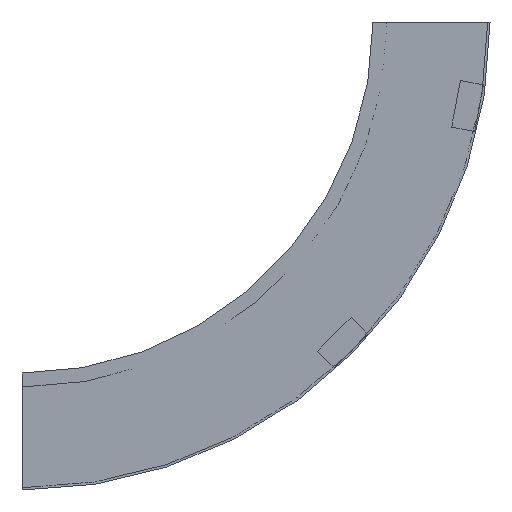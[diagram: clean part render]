
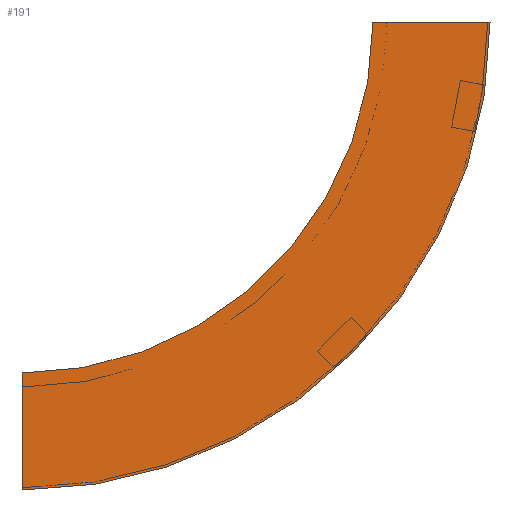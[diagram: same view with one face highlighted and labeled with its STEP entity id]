
A CAD part, left-side view. The second image highlights one B-rep face of the part: STEP entity #191.
In plain terms, the highlighted planar face has unit normal (-1, 0, 0) as drawn and (1, 0, 0) by its records, which use the part's own axes.
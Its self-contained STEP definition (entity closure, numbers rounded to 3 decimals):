
#10 = ORIENTED_EDGE ( 'NONE', *, *, #434, .F. ) ;
#24 = CARTESIAN_POINT ( 'NONE',  ( 0., 300., -400. ) ) ;
#27 = DIRECTION ( 'NONE',  ( 0., -1., 0. ) ) ;
#68 = CIRCLE ( 'NONE', #117, 300. ) ;
#74 = VECTOR ( 'NONE', #77, 1000. ) ;
#77 = DIRECTION ( 'NONE',  ( 0., 0., 1. ) ) ;
#80 = FACE_OUTER_BOUND ( 'NONE', #247, .T. ) ;
#86 = VERTEX_POINT ( 'NONE', #24 ) ;
#89 = DIRECTION ( 'NONE',  ( 0., -1., 0. ) ) ;
#117 = AXIS2_PLACEMENT_3D ( 'NONE', #306, #436, #27 ) ;
#127 = VECTOR ( 'NONE', #502, 1000. ) ;
#134 = VERTEX_POINT ( 'NONE', #567 ) ;
#138 = DIRECTION ( 'NONE',  ( 1., 0., 0. ) ) ;
#169 = AXIS2_PLACEMENT_3D ( 'NONE', #497, #138, #89 ) ;
#181 = EDGE_CURVE ( 'NONE', #86, #371, #437, .T. ) ;
#182 = CARTESIAN_POINT ( 'NONE',  ( 0., -100., 0. ) ) ;
#191 = ADVANCED_FACE ( 'NONE', ( #80 ), #542, .F. ) ;
#193 = CARTESIAN_POINT ( 'NONE',  ( 0., -100., 0. ) ) ;
#225 = DIRECTION ( 'NONE',  ( -1., 0., 0. ) ) ;
#247 = EDGE_LOOP ( 'NONE', ( #373, #10, #270, #296 ) ) ;
#249 = CARTESIAN_POINT ( 'NONE',  ( 0., -100., 0. ) ) ;
#270 = ORIENTED_EDGE ( 'NONE', *, *, #455, .T. ) ;
#271 = CIRCLE ( 'NONE', #169, 400. ) ;
#277 = CARTESIAN_POINT ( 'NONE',  ( 0., 300., -300. ) ) ;
#296 = ORIENTED_EDGE ( 'NONE', *, *, #181, .T. ) ;
#306 = CARTESIAN_POINT ( 'NONE',  ( 0., 300., 0. ) ) ;
#317 = CARTESIAN_POINT ( 'NONE',  ( 0., 300., -400. ) ) ;
#371 = VERTEX_POINT ( 'NONE', #277 ) ;
#373 = ORIENTED_EDGE ( 'NONE', *, *, #499, .F. ) ;
#381 = VERTEX_POINT ( 'NONE', #193 ) ;
#434 = EDGE_CURVE ( 'NONE', #381, #134, #509, .T. ) ;
#436 = DIRECTION ( 'NONE',  ( 1., 0., 0. ) ) ;
#437 = LINE ( 'NONE', #317, #74 ) ;
#455 = EDGE_CURVE ( 'NONE', #381, #86, #271, .T. ) ;
#484 = DIRECTION ( 'NONE',  ( 0., 0., 1. ) ) ;
#497 = CARTESIAN_POINT ( 'NONE',  ( 0., 300., 0. ) ) ;
#499 = EDGE_CURVE ( 'NONE', #134, #371, #68, .T. ) ;
#502 = DIRECTION ( 'NONE',  ( 0., 1., 0. ) ) ;
#509 = LINE ( 'NONE', #249, #127 ) ;
#542 = PLANE ( 'NONE',  #555 ) ;
#555 = AXIS2_PLACEMENT_3D ( 'NONE', #182, #225, #484 ) ;
#567 = CARTESIAN_POINT ( 'NONE',  ( 0., 0., 0. ) ) ;
